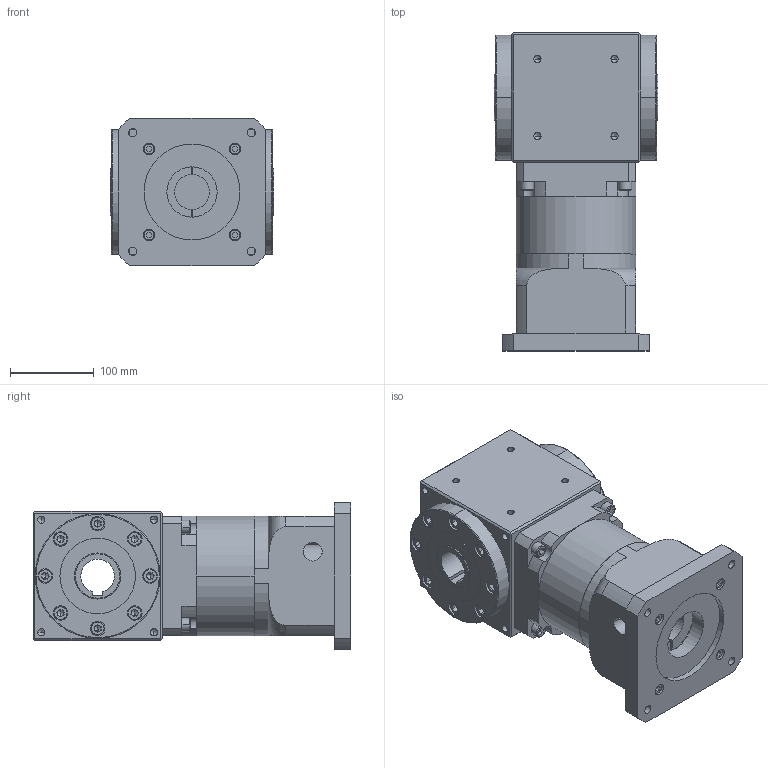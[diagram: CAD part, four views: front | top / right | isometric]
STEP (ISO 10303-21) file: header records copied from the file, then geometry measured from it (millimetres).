
FILE_DESCRIPTION (( 'STEP AP214' ), '1' );
FILE_NAME ('RAH150-L1-XX-H-42-114.3-200-M12_2019.STEP', '2019-03-27T09:58:47', ( 'Y' ), ( 'NCU' ), 'SwSTEP 2.0', 'SolidWorks 2016', '' );
FILE_SCHEMA (( 'AUTOMOTIVE_DESIGN' ));
Length unit declared in the file: millimetre
Products named in the file (1): RAH150-L1-XX-H-42-114.3-200-M12_2019
Bounding box: 195 x 379 x 176 mm (x, y, z)
Volume: 7896721.7 mm3; surface area: 520487.3 mm2
Topology: 2 solids, 36 shells, 973 faces, 2227 edges, 1370 vertices
Faces by surface type: plane 491, cylinder 318, cone 120, torus 44
Entity records: 29468 total; most frequent: CARTESIAN_POINT 5381, DIRECTION 4935, ORIENTED_EDGE 4294, EDGE_CURVE 2147, AXIS2_PLACEMENT_3D 1854, VERTEX_POINT 1370, VECTOR 1227, LINE 1227
